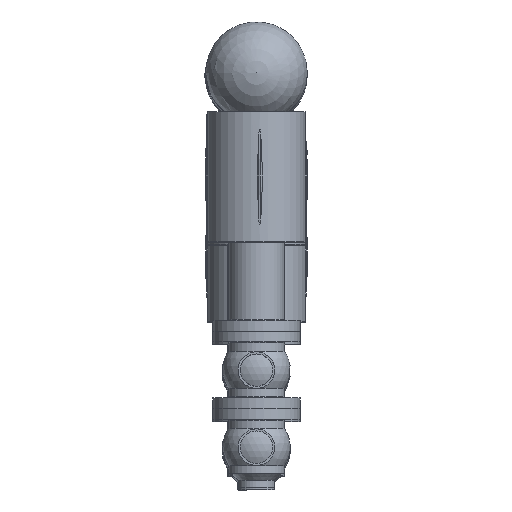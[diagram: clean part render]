
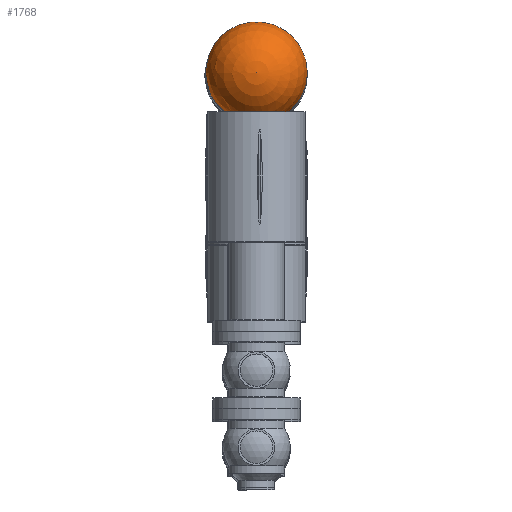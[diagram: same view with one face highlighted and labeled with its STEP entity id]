
A CAD part, front view. The second image highlights one B-rep face of the part: STEP entity #1768.
In plain terms, the highlighted spherical face has radius 72.5 mm.
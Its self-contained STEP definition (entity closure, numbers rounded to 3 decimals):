
#222=SPHERICAL_SURFACE('',#2129,72.5);
#246=FACE_BOUND('',#480,.T.);
#357=FACE_OUTER_BOUND('',#479,.T.);
#479=EDGE_LOOP('',(#1509,#1510));
#480=EDGE_LOOP('',(#1511));
#710=CIRCLE('',#2130,72.5);
#711=CIRCLE('',#2131,46.648);
#886=VERTEX_POINT('',#3520);
#887=VERTEX_POINT('',#3521);
#888=VERTEX_POINT('',#3523);
#1107=EDGE_CURVE('',#886,#887,#710,.T.);
#1108=EDGE_CURVE('',#888,#888,#711,.T.);
#1509=ORIENTED_EDGE('',*,*,#1107,.T.);
#1510=ORIENTED_EDGE('',*,*,#1107,.F.);
#1511=ORIENTED_EDGE('',*,*,#1108,.F.);
#1768=ADVANCED_FACE('',(#357,#246),#222,.T.);
#2129=AXIS2_PLACEMENT_3D('',#3519,#2633,#2634);
#2130=AXIS2_PLACEMENT_3D('',#3522,#2635,#2636);
#2131=AXIS2_PLACEMENT_3D('',#3524,#2637,#2638);
#2633=DIRECTION('center_axis',(0.,0.,1.));
#2634=DIRECTION('ref_axis',(1.,0.,0.));
#2635=DIRECTION('center_axis',(0.,-1.,0.));
#2636=DIRECTION('ref_axis',(-1.,0.,0.));
#2637=DIRECTION('center_axis',(0.,-1.,0.));
#2638=DIRECTION('ref_axis',(1.,0.,0.));
#3519=CARTESIAN_POINT('Origin',(150.,266.5,0.));
#3520=CARTESIAN_POINT('',(150.,266.5,72.5));
#3521=CARTESIAN_POINT('',(150.,266.5,-72.5));
#3522=CARTESIAN_POINT('Origin',(150.,266.5,0.));
#3523=CARTESIAN_POINT('',(196.648,211.,0.));
#3524=CARTESIAN_POINT('Origin',(150.,211.,0.));
